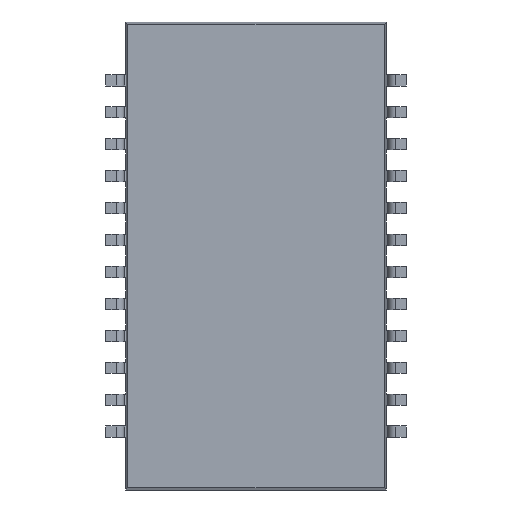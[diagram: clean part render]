
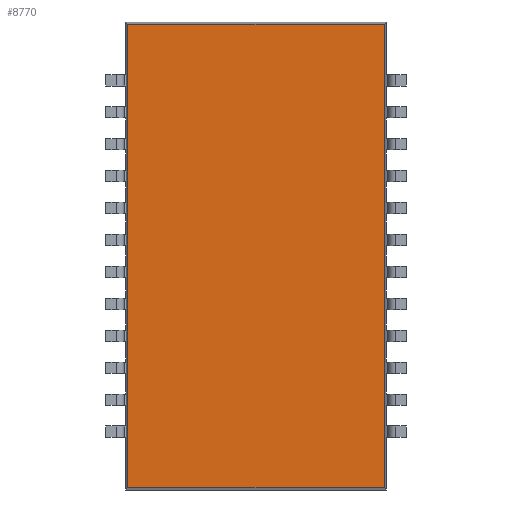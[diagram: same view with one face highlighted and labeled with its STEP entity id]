
A CAD part, front view. The second image highlights one B-rep face of the part: STEP entity #8770.
In plain terms, the highlighted planar face has unit normal (0, -1, 0).
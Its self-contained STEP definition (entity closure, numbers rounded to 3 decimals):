
#542 = CARTESIAN_POINT ( 'NONE',  ( 5.18, 0.1, -9.221 ) ) ;
#552 = CARTESIAN_POINT ( 'NONE',  ( 5.18, 0.1, 9.221 ) ) ;
#553 = DIRECTION ( 'NONE',  ( -1., 0., 0. ) ) ;
#554 = DIRECTION ( 'NONE',  ( 1., 0., 0. ) ) ;
#642 = CARTESIAN_POINT ( 'NONE',  ( 5.096, 0.1, 9.305 ) ) ;
#643 = DIRECTION ( 'NONE',  ( 0., 0., 1. ) ) ;
#658 = CARTESIAN_POINT ( 'NONE',  ( -5.096, 0.1, 9.305 ) ) ;
#659 = DIRECTION ( 'NONE',  ( 0., 0., -1. ) ) ;
#2157 = VERTEX_POINT ( 'NONE', #7849 ) ;
#2159 = VERTEX_POINT ( 'NONE', #7851 ) ;
#2164 = VERTEX_POINT ( 'NONE', #7856 ) ;
#2168 = VERTEX_POINT ( 'NONE', #7860 ) ;
#2700 = ORIENTED_EDGE ( 'NONE', *, *, #6745, .T. ) ;
#2702 = ORIENTED_EDGE ( 'NONE', *, *, #6694, .T. ) ;
#2704 = ORIENTED_EDGE ( 'NONE', *, *, #6737, .T. ) ;
#2706 = ORIENTED_EDGE ( 'NONE', *, *, #6693, .T. ) ;
#4441 = PLANE ( 'NONE',  #5291 ) ;
#4443 = CARTESIAN_POINT ( 'NONE',  ( 0., 0.1, 0. ) ) ;
#4455 = DIRECTION ( 'NONE',  ( 0., 1., 0. ) ) ;
#4456 = DIRECTION ( 'NONE',  ( 0., 0., 1. ) ) ;
#5291 = AXIS2_PLACEMENT_3D ( 'NONE', #4443, #4455, #4456 ) ;
#6693 = EDGE_CURVE ( 'NONE', #2164, #2159, #12403, .T. ) ;
#6694 = EDGE_CURVE ( 'NONE', #2157, #2168, #12397, .T. ) ;
#6737 = EDGE_CURVE ( 'NONE', #2168, #2164, #12490, .T. ) ;
#6745 = EDGE_CURVE ( 'NONE', #2159, #2157, #12506, .T. ) ;
#7849 = CARTESIAN_POINT ( 'NONE',  ( -5.096, 0.1, -9.221 ) ) ;
#7851 = CARTESIAN_POINT ( 'NONE',  ( -5.096, 0.1, 9.221 ) ) ;
#7856 = CARTESIAN_POINT ( 'NONE',  ( 5.096, 0.1, 9.221 ) ) ;
#7860 = CARTESIAN_POINT ( 'NONE',  ( 5.096, 0.1, -9.221 ) ) ;
#8770 = ADVANCED_FACE ( 'NONE', ( #11109 ), #4441, .F. ) ;
#11109 = FACE_OUTER_BOUND ( 'NONE', #12207, .T. ) ;
#12207 = EDGE_LOOP ( 'NONE', ( #2700, #2702, #2704, #2706 ) ) ;
#12397 = LINE ( 'NONE', #542, #12408 ) ;
#12403 = LINE ( 'NONE', #552, #12406 ) ;
#12406 = VECTOR ( 'NONE', #553, 1000. ) ;
#12408 = VECTOR ( 'NONE', #554, 1000. ) ;
#12490 = LINE ( 'NONE', #642, #12493 ) ;
#12493 = VECTOR ( 'NONE', #643, 1000. ) ;
#12506 = LINE ( 'NONE', #658, #12509 ) ;
#12509 = VECTOR ( 'NONE', #659, 1000. ) ;
